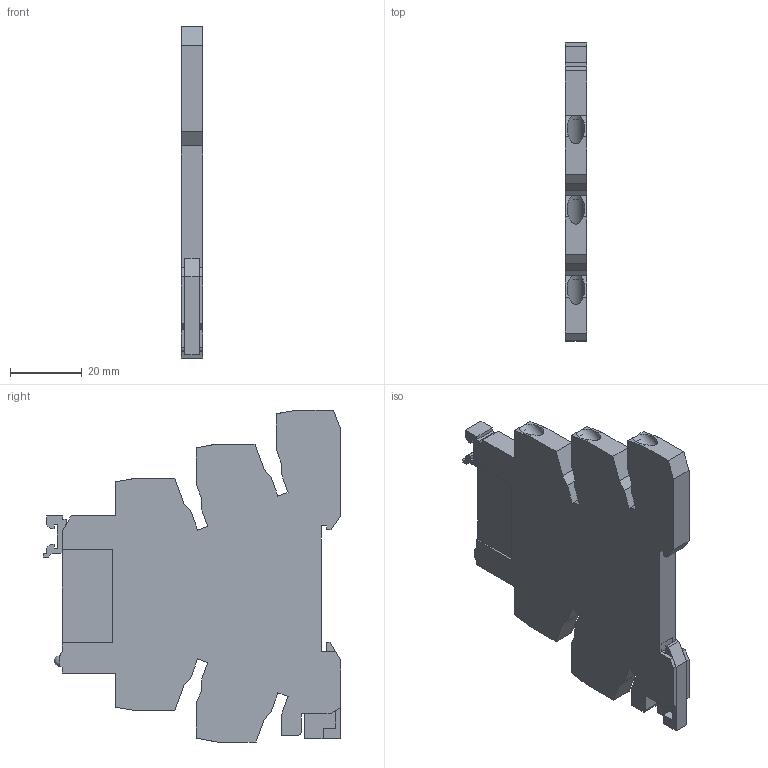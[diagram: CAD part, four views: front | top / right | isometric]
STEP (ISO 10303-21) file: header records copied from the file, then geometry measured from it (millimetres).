
FILE_DESCRIPTION(/* description */ (''),/* implementation_level */ '2;1');
FILE_NAME(/* name */ 'C:\Users\Workstation\Desktop\CR-230-1FC.stp',/* time_stamp */ '2023-07-12T20:50:00+08:00',/* author */ ('PR12'),/* organization */ (''),/* preprocessor_version */ 'ST-DEVELOPER v18.1',/* originating_system */ 'Autodesk Inventor 2022',/* authorisation */ '');
FILE_SCHEMA (('AUTOMOTIVE_DESIGN { 1 0 10303 214 3 1 1 }'));
Length unit declared in the file: millimetre
Products named in the file (1): Деталь1
Bounding box: 6.1 x 83 x 92.5 mm (x, y, z)
Volume: 29966.2 mm3; surface area: 16050.6 mm2
Topology: 9 solids, 9 shells, 216 faces, 581 edges, 386 vertices
Faces by surface type: plane 204, cylinder 11, sphere 1
Full cylindrical faces by diameter (mm): 5 x5
Entity records: 6895 total; most frequent: CARTESIAN_POINT 1182, ORIENTED_EDGE 1158, DIRECTION 1061, EDGE_CURVE 579, LINE 531, VECTOR 531, VERTEX_POINT 386, AXIS2_PLACEMENT_3D 265
